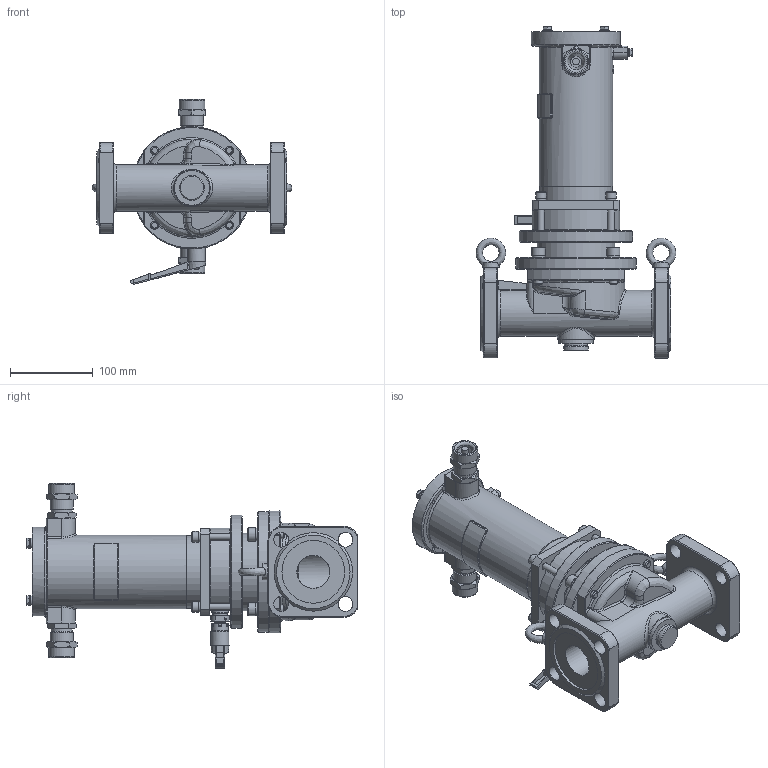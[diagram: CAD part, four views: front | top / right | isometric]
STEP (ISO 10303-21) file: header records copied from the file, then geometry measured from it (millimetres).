
FILE_DESCRIPTION(('STEP AP203'), '1');
FILE_NAME('捇迕-珅 DN40PN25', '', ('UNSPECIFIED'), ('UNSPECIFIED'), 'C3D Converter', 'C3D Toolkit', '');
FILE_SCHEMA(('CONFIG_CONTROL_DESIGN'));
Length unit declared in the file: millimetre
Bounding box: 241.85 x 401.7 x 224 mm (x, y, z)
Volume: 2121068.8 mm3; surface area: 497490.8 mm2
Topology: 4 solids, 20 shells, 2944 faces, 7907 edges, 5101 vertices
Faces by surface type: plane 1252, cylinder 1214, cone 191, extrusion 108, bspline 99, torus 71, sphere 9
Full cylindrical faces by diameter (mm): 1 x2, 2.459 x1, 3 x1, 3.1 x1, 3.242 x1, 3.5 x2, 4 x2, 4.134 x1, 4.3 x1, 4.917 x6, 5 x2, 6 x10, 6.3 x1, 6.647 x8, 7 x1, 8 x13, 9 x9, 10 x11, 11 x5, 12 x6, 12.5 x1, 13 x6, 13.8 x1, 14 x2, 15 x1, 16 x5, 17 x1, 17.8 x1, 18 x8, 18.376 x1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
Entity records: 145105 total; most frequent: CARTESIAN_POINT 48905, DIRECTION 15155, ORIENTED_EDGE 15008, EDGE_CURVE 7504, AXIS2_PLACEMENT_3D 5666, VERTEX_POINT 5074, VECTOR 3823, LINE 3715
